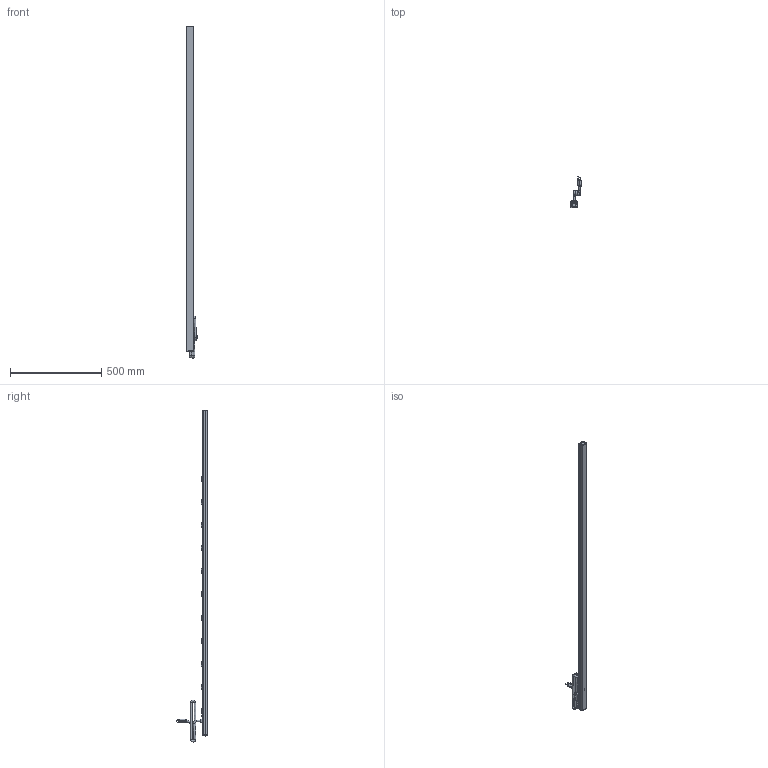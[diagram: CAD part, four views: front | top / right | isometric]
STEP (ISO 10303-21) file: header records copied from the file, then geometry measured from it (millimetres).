
FILE_DESCRIPTION((''),'2;1');
FILE_NAME('E:\Dutton\Manufacturing\drawings\Updated 2009\Vertical Rack Mount Strips\1587 Series\STEP''s\1587H10A1.stp','2010-01-19T14:19:37',('tfoster'),(''),'Autodesk Inventor 2010','Autodesk Inventor 2010','');
FILE_SCHEMA(('AUTOMOTIVE_DESIGN { 1 0 10303 214 1 1 1 1 }'));
Length unit declared in the file: inch
Products named in the file (14): 1587H10A1; 1587H10 top; 1587 bottom; End Cap; End Cap w breaker; Reset Switch; #6 - 0.375 Type A screw; Cored 2; toothwasher; round head 1-way 8-32 x 0.5 screw; Power Switch Assembly; Power Switch; Power Switch pt; Receptacle
Assembly tree (25 placements, depth 3):
  1587H10A1
    1587H10 top
    1587 bottom
    End Cap
    End Cap w breaker
    Reset Switch
    #6 - 0.375 Type A screw  x4
    Cored 2
    toothwasher
    round head 1-way 8-32 x 0.5 screw
    Power Switch Assembly
      Power Switch
      Power Switch pt
    Receptacle  x10
Bounding box: 60.19 x 170.82 x 1821.58 mm (x, y, z)
Volume: 641850.3 mm3; surface area: 661396.7 mm2
Topology: 24 solids, 24 shells, 1229 faces, 3498 edges, 2307 vertices
Faces by surface type: plane 736, cylinder 266, bspline 139, sphere 46, cone 27, torus 15
Full cylindrical faces by diameter (mm): 1 x2, 1.803 x3, 1.905 x2, 3 x2, 3.175 x12, 4.3 x1, 4.775 x1, 4.826 x1, 7.849 x1, 9.5 x5, 11 x1, 15.621 x1, 19.05 x2
Entity records: 27633 total; most frequent: CARTESIAN_POINT 9778, ORIENTED_EDGE 3860, DIRECTION 3201, EDGE_CURVE 1930, VERTEX_POINT 1360, VECTOR 1129, LINE 1129, AXIS2_PLACEMENT_3D 1036
